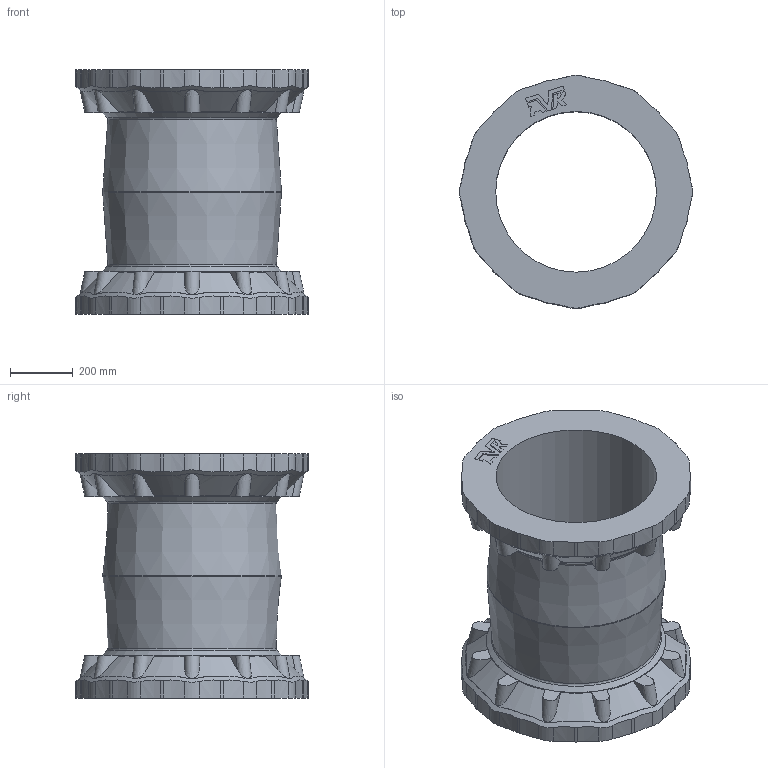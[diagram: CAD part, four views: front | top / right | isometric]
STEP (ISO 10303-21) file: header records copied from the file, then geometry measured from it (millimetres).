
FILE_DESCRIPTION (( 'STEP AP203' ), '1' );
FILE_NAME ('O_631_00_DN450_AA0.step', '2018-07-03T05:41:33', ( 'Windows User' ), ( 'AVK' ), 'SwSTEP 2.0', 'SolidWorks 2012', '' );
FILE_SCHEMA (( 'CONFIG_CONTROL_DESIGN' ));
Length unit declared in the file: millimetre
Products named in the file (1): O_631_00_DN450_AA0
Bounding box: 739.6 x 739 x 776.63 mm (x, y, z)
Volume: 63386580.8 mm3; surface area: 3395231.7 mm2
Topology: 1 solids, 1 shells, 446 faces, 1328 edges, 890 vertices
Faces by surface type: cylinder 171, bspline 120, plane 120, cone 32, torus 3
Full cylindrical faces by diameter (mm): 510 x1, 570 x2
Entity records: 41164 total; most frequent: CARTESIAN_POINT 30302, ORIENTED_EDGE 2612, DIRECTION 1778, EDGE_CURVE 1306, VERTEX_POINT 882, AXIS2_PLACEMENT_3D 685, B_SPLINE_CURVE_WITH_KNOTS 516, EDGE_LOOP 468
